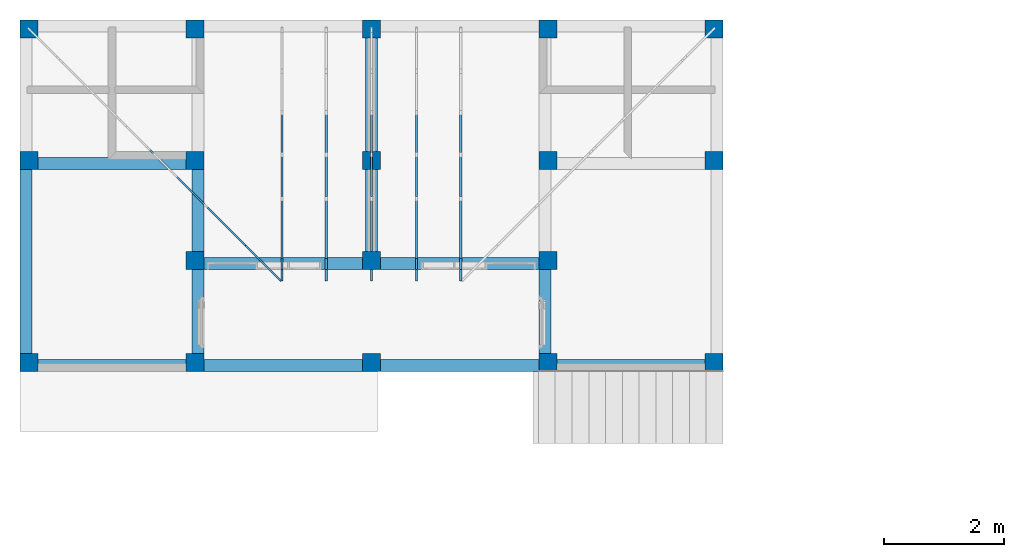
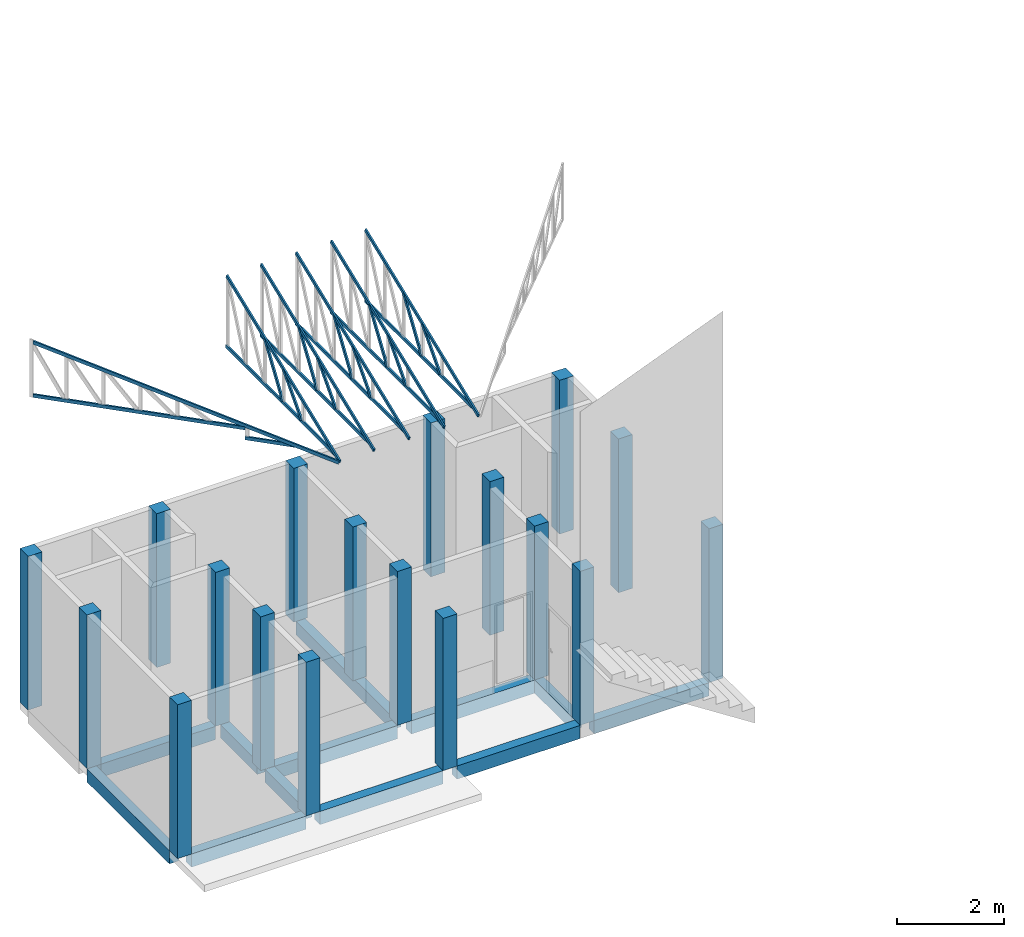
# One storey, part 1 of 10: 23 members, 18 columns, 12 beams, 6 elements without a shape of their own.
"""IFC4X3_ADD2 building model written with IfcOpenShell, lengths in millimetres."""

from ifc_helpers import new_model, entity, si_unit, converted_unit, frame, origin_with_axes, origin_2d_with_axis, place, context, subcontext, project, spatial, rectangle, extrude, clip, halfspace, material, material_profile, profile_set, profile_usage, type_object, element, aggregate, save


model = new_model("IFC4X3_ADD2")

# Units and contexts
model_context = context("Model", 3, precision=1e-05, world=origin_with_axes())
plan_context = context("Plan", 2, precision=1e-05, world=origin_2d_with_axis())
body_context = subcontext(model_context, "Body", "Model", "MODEL_VIEW")
ifc_project = project(units=[si_unit("VOLUMEUNIT", "CUBIC_METRE"), si_unit("LENGTHUNIT", "METRE", prefix="MILLI"), converted_unit("PLANEANGLEUNIT", "degree", entity("IfcReal", 0.0174532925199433), si_unit("PLANEANGLEUNIT", "RADIAN"), dimensions=[0, 0, 0, 0, 0, 0, 0]), si_unit("AREAUNIT", "SQUARE_METRE")], contexts=[model_context, plan_context])

# Site, building, storey
site_placement = place(None, origin_with_axes())
site = spatial("IfcSite", under=ifc_project, at=site_placement, Name="My Site")
building_placement = place(site_placement, origin_with_axes())
building = spatial("IfcBuilding", under=site, at=building_placement, Name="My Building")
storey_placement = place(building_placement, origin_with_axes())
storey = spatial("IfcBuildingStorey", under=building, at=storey_placement, Name="Lantai 1")

# Columns
ifc_material_1 = material(Name="plester")
ifc_material_profile_1 = material_profile(ifc_material_1, rectangle(XDim=300.0, YDim=300.0))
ifc_profile_set_1 = profile_set([ifc_material_profile_1])
ifc_profile_usage_1 = profile_usage(ifc_profile_set_1, cardinal=5)
column_type = type_object("IfcColumnType", Name="K1", PredefinedType="COLUMN", material=ifc_profile_set_1)
column_1_placement = place(storey_placement, origin_with_axes())
element("IfcColumn", 1, at=column_1_placement, inside=storey, type_object=column_type, material=ifc_profile_usage_1, Name="Column", context=body_context, shape_type="SweptSolid", body=[
    extrude(rectangle(XDim=300.0, YDim=300.0), origin_with_axes(), (0.0, 0.0, 1.0), 3500.00027247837),
])
ifc_profile_usage_2 = profile_usage(ifc_profile_set_1, cardinal=5)
column_2_placement = place(storey_placement, frame((0.0, 3369.99988555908, 0.0), z_axis=(0.0, 0.0, 1.0), x_axis=(1.0, 0.0, 0.0)))
element("IfcColumn", 2, at=column_2_placement, inside=storey, type_object=column_type, material=ifc_profile_usage_2, Name="Column", context=body_context, shape_type="SweptSolid", body=[
    extrude(rectangle(XDim=300.0, YDim=300.0), origin_with_axes(), (0.0, 0.0, 1.0), 3500.00027247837),
])
ifc_profile_usage_3 = profile_usage(ifc_profile_set_1, cardinal=5)
column_3_placement = place(storey_placement, frame((0.0, 5569.99969482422, 0.0), z_axis=(0.0, 0.0, 1.0), x_axis=(1.0, 0.0, 0.0)))
element("IfcColumn", 3, at=column_3_placement, inside=storey, type_object=column_type, material=ifc_profile_usage_3, Name="Column", context=body_context, shape_type="SweptSolid", body=[
    extrude(rectangle(XDim=300.0, YDim=300.0), origin_with_axes(), (0.0, 0.0, 1.0), 3500.00027247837),
])
ifc_profile_usage_4 = profile_usage(ifc_profile_set_1, cardinal=5)
column_4_placement = place(storey_placement, frame((2769.99998092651, 5569.99969482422, 0.0), z_axis=(0.0, 0.0, 1.0), x_axis=(1.0, 0.0, 0.0)))
element("IfcColumn", 4, at=column_4_placement, inside=storey, type_object=column_type, material=ifc_profile_usage_4, Name="Column", context=body_context, shape_type="SweptSolid", body=[
    extrude(rectangle(XDim=300.0, YDim=300.0), origin_with_axes(), (0.0, 0.0, 1.0), 3500.00027247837),
])
ifc_profile_usage_5 = profile_usage(ifc_profile_set_1, cardinal=5)
column_5_placement = place(storey_placement, frame((2769.99998092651, 1699.99980926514, 0.0), z_axis=(0.0, 0.0, 1.0), x_axis=(1.0, 0.0, 0.0)))
element("IfcColumn", 5, at=column_5_placement, inside=storey, type_object=column_type, material=ifc_profile_usage_5, Name="Column", context=body_context, shape_type="SweptSolid", body=[
    extrude(rectangle(XDim=300.0, YDim=300.0), origin_with_axes(), (0.0, 0.0, 1.0), 3500.00027247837),
])
ifc_profile_usage_6 = profile_usage(ifc_profile_set_1, cardinal=5)
column_6_placement = place(storey_placement, frame((2769.99998092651, 0.0, 0.0), z_axis=(0.0, 0.0, 1.0), x_axis=(1.0, 0.0, 0.0)))
element("IfcColumn", 6, at=column_6_placement, inside=storey, type_object=column_type, material=ifc_profile_usage_6, Name="Column", context=body_context, shape_type="SweptSolid", body=[
    extrude(rectangle(XDim=300.0, YDim=300.0), origin_with_axes(), (0.0, 0.0, 1.0), 3500.00027247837),
])
ifc_profile_usage_7 = profile_usage(ifc_profile_set_1, cardinal=5)
column_7_placement = place(storey_placement, frame((2769.99998092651, 3369.99988555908, 0.0), z_axis=(0.0, 0.0, 1.0), x_axis=(1.0, 0.0, 0.0)))
element("IfcColumn", 7, at=column_7_placement, inside=storey, type_object=column_type, material=ifc_profile_usage_7, Name="Column", context=body_context, shape_type="SweptSolid", body=[
    extrude(rectangle(XDim=300.0, YDim=300.0), origin_with_axes(), (0.0, 0.0, 1.0), 3500.00027247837),
])
ifc_profile_usage_8 = profile_usage(ifc_profile_set_1, cardinal=5)
column_8_placement = place(storey_placement, frame((5720.00026702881, 5569.99969482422, 0.0), z_axis=(0.0, 0.0, 1.0), x_axis=(1.0, 0.0, 0.0)))
element("IfcColumn", 8, at=column_8_placement, inside=storey, type_object=column_type, material=ifc_profile_usage_8, Name="Column", context=body_context, shape_type="SweptSolid", body=[
    extrude(rectangle(XDim=300.0, YDim=300.0), origin_with_axes(), (0.0, 0.0, 1.0), 3500.00027247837),
])
ifc_profile_usage_9 = profile_usage(ifc_profile_set_1, cardinal=5)
column_9_placement = place(storey_placement, frame((5720.00026702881, 3369.99988555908, 0.0), z_axis=(0.0, 0.0, 1.0), x_axis=(1.0, 0.0, 0.0)))
element("IfcColumn", 9, at=column_9_placement, inside=storey, type_object=column_type, material=ifc_profile_usage_9, Name="Column", context=body_context, shape_type="SweptSolid", body=[
    extrude(rectangle(XDim=300.0, YDim=300.0), origin_with_axes(), (0.0, 0.0, 1.0), 3500.00027247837),
])
ifc_profile_usage_10 = profile_usage(ifc_profile_set_1, cardinal=5)
column_10_placement = place(storey_placement, frame((5720.00026702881, 1699.99980926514, 0.0), z_axis=(0.0, 0.0, 1.0), x_axis=(1.0, 0.0, 0.0)))
element("IfcColumn", 10, at=column_10_placement, inside=storey, type_object=column_type, material=ifc_profile_usage_10, Name="Column", context=body_context, shape_type="SweptSolid", body=[
    extrude(rectangle(XDim=300.0, YDim=300.0), origin_with_axes(), (0.0, 0.0, 1.0), 3500.00027247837),
])
ifc_profile_usage_11 = profile_usage(ifc_profile_set_1, cardinal=5)
column_11_placement = place(storey_placement, frame((5720.00026702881, 0.0, 0.0), z_axis=(0.0, 0.0, 1.0), x_axis=(1.0, 0.0, 0.0)))
element("IfcColumn", 11, at=column_11_placement, inside=storey, type_object=column_type, material=ifc_profile_usage_11, Name="Column", context=body_context, shape_type="SweptSolid", body=[
    extrude(rectangle(XDim=300.0, YDim=300.0), origin_with_axes(), (0.0, 0.0, 1.0), 3465.00008455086),
])
ifc_profile_usage_12 = profile_usage(ifc_profile_set_1, cardinal=5)
column_12_placement = place(storey_placement, frame((8670.00007629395, 0.0, 0.0), z_axis=(0.0, 0.0, 1.0), x_axis=(1.0, 0.0, 0.0)))
element("IfcColumn", 12, at=column_12_placement, inside=storey, type_object=column_type, material=ifc_profile_usage_12, Name="Column", context=body_context, shape_type="SweptSolid", body=[
    extrude(rectangle(XDim=300.0, YDim=300.0), origin_with_axes(), (0.0, 0.0, 1.0), 3500.00027247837),
])
ifc_profile_usage_13 = profile_usage(ifc_profile_set_1, cardinal=5)
column_13_placement = place(storey_placement, frame((8670.00007629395, 1699.99980926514, 0.0), z_axis=(0.0, 0.0, 1.0), x_axis=(1.0, 0.0, 0.0)))
element("IfcColumn", 13, at=column_13_placement, inside=storey, type_object=column_type, material=ifc_profile_usage_13, Name="Column", context=body_context, shape_type="SweptSolid", body=[
    extrude(rectangle(XDim=300.0, YDim=300.0), origin_with_axes(), (0.0, 0.0, 1.0), 3500.00027247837),
])
ifc_profile_usage_14 = profile_usage(ifc_profile_set_1, cardinal=5)
column_14_placement = place(storey_placement, frame((8670.00007629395, 3369.99988555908, 0.0), z_axis=(0.0, 0.0, 1.0), x_axis=(1.0, 0.0, 0.0)))
element("IfcColumn", 14, at=column_14_placement, inside=storey, type_object=column_type, material=ifc_profile_usage_14, Name="Column", context=body_context, shape_type="SweptSolid", body=[
    extrude(rectangle(XDim=300.0, YDim=300.0), origin_with_axes(), (0.0, 0.0, 1.0), 3500.00027247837),
])
ifc_profile_usage_15 = profile_usage(ifc_profile_set_1, cardinal=5)
column_15_placement = place(storey_placement, frame((8670.00007629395, 5569.99969482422, 0.0), z_axis=(0.0, 0.0, 1.0), x_axis=(1.0, 0.0, 0.0)))
element("IfcColumn", 15, at=column_15_placement, inside=storey, type_object=column_type, material=ifc_profile_usage_15, Name="Column", context=body_context, shape_type="SweptSolid", body=[
    extrude(rectangle(XDim=300.0, YDim=300.0), origin_with_axes(), (0.0, 0.0, 1.0), 3500.00027247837),
])
ifc_profile_usage_16 = profile_usage(ifc_profile_set_1, cardinal=5)
column_16_placement = place(storey_placement, frame((11440.0005340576, 5569.99969482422, 0.0), z_axis=(0.0, 0.0, 1.0), x_axis=(1.0, 0.0, 0.0)))
element("IfcColumn", 16, at=column_16_placement, inside=storey, type_object=column_type, material=ifc_profile_usage_16, Name="Column", context=body_context, shape_type="SweptSolid", body=[
    extrude(rectangle(XDim=300.0, YDim=300.0), origin_with_axes(), (0.0, 0.0, 1.0), 3500.00027247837),
])
ifc_profile_usage_17 = profile_usage(ifc_profile_set_1, cardinal=5)
column_17_placement = place(storey_placement, frame((11440.0005340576, 3369.99988555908, 0.0), z_axis=(0.0, 0.0, 1.0), x_axis=(1.0, 0.0, 0.0)))
element("IfcColumn", 17, at=column_17_placement, inside=storey, type_object=column_type, material=ifc_profile_usage_17, Name="Column", context=body_context, shape_type="SweptSolid", body=[
    extrude(rectangle(XDim=300.0, YDim=300.0), origin_with_axes(), (0.0, 0.0, 1.0), 3500.00027247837),
])
ifc_profile_usage_18 = profile_usage(ifc_profile_set_1, cardinal=5)
column_18_placement = place(storey_placement, frame((11440.0005340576, 0.0, 0.0), z_axis=(0.0, 0.0, 1.0), x_axis=(1.0, 0.0, 0.0)))
element("IfcColumn", 18, at=column_18_placement, inside=storey, type_object=column_type, material=ifc_profile_usage_18, Name="Column", context=body_context, shape_type="SweptSolid", body=[
    extrude(rectangle(XDim=300.0, YDim=300.0), origin_with_axes(), (0.0, 0.0, 1.0), 3500.00027247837),
])

# Beams
ifc_material_profile_2 = material_profile(ifc_material_1, rectangle(XDim=200.0, YDim=300.0))
ifc_profile_set_2 = profile_set([ifc_material_profile_2])
ifc_profile_usage_19 = profile_usage(ifc_profile_set_2, cardinal=9)
beam_type = type_object("IfcBeamType", Name="TB1", PredefinedType="BEAM", material=ifc_profile_set_2)
beam_1_placement = place(storey_placement, frame((-150.000005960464, 3219.99979019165, 0.0), z_axis=(0.0, -0.999999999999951, 3.13916482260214e-07), x_axis=(1.0, 0.0, 0.0)))
element("IfcBeam", 19, at=beam_1_placement, inside=storey, type_object=beam_type, material=ifc_profile_usage_19, Name="Beam", context=body_context, shape_type="SweptSolid", body=[
    extrude(rectangle(XDim=200.0, YDim=300.0), frame((100.0, -150.0, 0.0), z_axis=(0.0, 0.0, 1.0), x_axis=(1.0, 0.0, 0.0)), (0.0, 0.0, 1.0), 3069.99969830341),
])
ifc_profile_usage_20 = profile_usage(ifc_profile_set_2, cardinal=9)
beam_2_placement = place(storey_placement, frame((150.000005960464, -150.000005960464, 0.0), z_axis=(0.999999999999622, -6.71544177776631e-07, 5.52335037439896e-07), x_axis=(6.7154434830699e-07, 0.99999999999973, -2.98023191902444e-07)))
element("IfcBeam", 20, at=beam_2_placement, inside=storey, type_object=beam_type, material=ifc_profile_usage_20, Name="Beam", context=body_context, shape_type="SweptSolid", body=[
    extrude(rectangle(XDim=200.0, YDim=300.0), frame((100.0, -150.0, 0.0), z_axis=(0.0, 0.0, 1.0), x_axis=(1.0, 0.0, 0.0)), (0.0, 0.0, 1.0), 2469.99974548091),
])
ifc_profile_usage_21 = profile_usage(ifc_profile_set_2, cardinal=9)
beam_3_placement = place(storey_placement, frame((2920.00007629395, -150.000005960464, 0.0), z_axis=(0.999999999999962, -1.94707164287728e-07, 1.94707178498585e-07), x_axis=(1.94707178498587e-07, 0.999999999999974, -1.19209289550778e-07)))
element("IfcBeam", 21, at=beam_3_placement, inside=storey, type_object=beam_type, material=ifc_profile_usage_21, Name="Beam", context=body_context, shape_type="SweptSolid", body=[
    extrude(rectangle(XDim=200.0, YDim=300.0), frame((100.0, -150.0, 0.0), z_axis=(0.0, 0.0, 1.0), x_axis=(1.0, 0.0, 0.0)), (0.0, 0.0, 1.0), 2650.00009716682),
])
ifc_profile_usage_22 = profile_usage(ifc_profile_set_2, cardinal=9)
beam_4_placement = place(storey_placement, frame((5870.00036239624, -150.000005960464, 0.0), z_axis=(0.999999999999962, -1.94707164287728e-07, 1.94707178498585e-07), x_axis=(1.94707178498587e-07, 0.999999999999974, -1.19209289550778e-07)))
element("IfcBeam", 22, at=beam_4_placement, inside=storey, type_object=beam_type, material=ifc_profile_usage_22, Name="Beam", context=body_context, shape_type="SweptSolid", body=[
    extrude(rectangle(XDim=200.0, YDim=300.0), frame((100.0, -150.0, 0.0), z_axis=(0.0, 0.0, 1.0), x_axis=(1.0, 0.0, 0.0)), (0.0, 0.0, 1.0), 2650.00009716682),
])
ifc_profile_usage_23 = profile_usage(ifc_profile_set_2, cardinal=9)
beam_5_placement = place(storey_placement, frame((8819.99969482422, -150.000005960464, 0.0), z_axis=(0.999999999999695, -5.5233481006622e-07, 5.52335037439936e-07), x_axis=(5.52335037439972e-07, 0.99999999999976, -4.17232502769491e-07)))
element("IfcBeam", 23, at=beam_5_placement, inside=storey, type_object=beam_type, material=ifc_profile_usage_23, Name="Beam", context=body_context, shape_type="SweptSolid", body=[
    extrude(rectangle(XDim=200.0, YDim=300.0), frame((100.0, -150.0, 0.0), z_axis=(0.0, 0.0, 1.0), x_axis=(1.0, 0.0, 0.0)), (0.0, 0.0, 1.0), 2470.00119336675),
])
ifc_profile_usage_24 = profile_usage(ifc_profile_set_2, cardinal=9)
beam_6_placement = place(storey_placement, frame((2920.00007629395, 1549.99983310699, -3.88538837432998), z_axis=(0.999999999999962, -1.94707169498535e-07, 1.9470718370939e-07), x_axis=(1.94707183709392e-07, 0.999999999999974, -1.19209289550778e-07)))
element("IfcBeam", 24, at=beam_6_placement, inside=storey, type_object=beam_type, material=ifc_profile_usage_24, Name="Beam", context=body_context, shape_type="SweptSolid", body=[
    extrude(rectangle(XDim=200.0, YDim=300.0), frame((100.0, -150.0, 0.0), z_axis=(0.0, 0.0, 1.0), x_axis=(1.0, 0.0, 0.0)), (0.0, 0.0, 1.0), 2650.00009716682),
])
ifc_profile_usage_25 = profile_usage(ifc_profile_set_2, cardinal=9)
beam_7_placement = place(storey_placement, frame((5870.00036239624, 1549.99983310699, -3.88538837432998), z_axis=(0.999998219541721, -1.94707057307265e-07, 0.00188703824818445), x_axis=(1.94707183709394e-07, 0.999999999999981, 1.12471816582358e-10)))
element("IfcBeam", 25, at=beam_7_placement, inside=storey, type_object=beam_type, material=ifc_profile_usage_25, Name="Beam", context=body_context, shape_type="SweptSolid", body=[
    extrude(rectangle(XDim=200.0, YDim=300.0), frame((100.0, -150.0, 0.0), z_axis=(0.0, 0.0, 1.0), x_axis=(1.0, 0.0, 0.0)), (0.0, 0.0, 1.0), 2650.00481413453),
])
ifc_profile_usage_26 = profile_usage(ifc_profile_set_2, cardinal=9)
beam_8_placement = place(storey_placement, frame((2920.00007629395, 150.000005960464, -3.88538837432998), z_axis=(-8.74227765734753e-08, 0.999999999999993, 7.54979012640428e-08), x_axis=(-0.999999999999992, -8.74227765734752e-08, 8.74227836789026e-08)))
element("IfcBeam", 26, at=beam_8_placement, inside=storey, type_object=beam_type, material=ifc_profile_usage_26, Name="Beam", context=body_context, shape_type="SweptSolid", body=[
    extrude(rectangle(XDim=200.0, YDim=300.0), frame((100.0, -150.0, 0.0), z_axis=(0.0, 0.0, 1.0), x_axis=(1.0, 0.0, 0.0)), (0.0, 0.0, 1.0), 1399.99984332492),
])
ifc_profile_usage_27 = profile_usage(ifc_profile_set_2, cardinal=9)
beam_9_placement = place(storey_placement, frame((2920.00007629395, 1849.99978542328, -3.88538837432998), z_axis=(8.77412574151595e-08, 0.999993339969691, 0.00364965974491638), x_axis=(-0.999999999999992, 8.74227765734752e-08, 8.74221797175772e-08)))
element("IfcBeam", 27, at=beam_9_placement, inside=storey, type_object=beam_type, material=ifc_profile_usage_27, Name="Beam", context=body_context, shape_type="SweptSolid", body=[
    extrude(rectangle(XDim=200.0, YDim=300.0), frame((100.0, -150.0, 0.0), z_axis=(0.0, 0.0, 1.0), x_axis=(1.0, 0.0, 0.0)), (0.0, 0.0, 1.0), 1370.00910858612),
])
ifc_profile_usage_28 = profile_usage(ifc_profile_set_2, cardinal=9)
beam_10_placement = place(storey_placement, frame((150.000005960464, 3219.99979019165, 0.0), z_axis=(0.999999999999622, -6.71544177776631e-07, 5.52335037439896e-07), x_axis=(6.7154434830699e-07, 0.99999999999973, -2.98023191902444e-07)))
element("IfcBeam", 28, at=beam_10_placement, inside=storey, type_object=beam_type, material=ifc_profile_usage_28, Name="Beam", context=body_context, shape_type="SweptSolid", body=[
    extrude(rectangle(XDim=200.0, YDim=300.0), frame((100.0, -150.0, 0.0), z_axis=(0.0, 0.0, 1.0), x_axis=(1.0, 0.0, 0.0)), (0.0, 0.0, 1.0), 2469.99974548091),
])
ifc_profile_usage_29 = profile_usage(ifc_profile_set_2, cardinal=8)
beam_11_placement = place(storey_placement, frame((5720.00026702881, 5419.99959945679, 0.0), z_axis=(0.0, -0.999999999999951, 3.13916482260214e-07), x_axis=(1.0, 0.0, 0.0)))
element("IfcBeam", 29, at=beam_11_placement, inside=storey, type_object=beam_type, material=ifc_profile_usage_29, Name="Beam", context=body_context, shape_type="SweptSolid", body=[
    extrude(rectangle(XDim=200.0, YDim=300.0), frame((0.0, -150.0, 0.0), z_axis=(0.0, 0.0, 1.0), x_axis=(1.0, 0.0, 0.0)), (0.0, 0.0, 1.0), 3569.99943068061),
])
ifc_profile_usage_30 = profile_usage(ifc_profile_set_2, cardinal=9)
beam_12_placement = place(storey_placement, frame((8520.00045776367, 1549.99983310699, -0.000105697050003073), z_axis=(0.0, -0.999999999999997, 7.54979012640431e-08), x_axis=(1.0, 0.0, 0.0)))
element("IfcBeam", 30, at=beam_12_placement, inside=storey, type_object=beam_type, material=ifc_profile_usage_30, Name="Beam", context=body_context, shape_type="SweptSolid", body=[
    extrude(rectangle(XDim=200.0, YDim=300.0), frame((100.0, -150.0, 0.0), z_axis=(0.0, 0.0, 1.0), x_axis=(1.0, 0.0, 0.0)), (0.0, 0.0, 1.0), 1399.99984332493),
])

# Assembly, members
assembly_1_placement = place(storey_placement, frame((-23.0636596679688, 5586.93552017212, 3885.87069511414), z_axis=(0.0, 0.0, 1.0), x_axis=(0.707106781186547, 0.707106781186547, 0.0)))
assembly_1 = element("IfcElementAssembly", 31, at=assembly_1_placement, inside=storey, Name="KK2_0")
ifc_material_2 = material(Name="Galvanis")
ifc_material_profile_3 = material_profile(ifc_material_2, rectangle(XDim=35.0, YDim=75.0))
ifc_profile_set_3 = profile_set([ifc_material_profile_3])
ifc_profile_usage_31 = profile_usage(ifc_profile_set_3, cardinal=2)
member_type = type_object("IfcMemberType", Name="C75", PredefinedType="MEMBER", material=ifc_profile_set_3)
member_1_placement = place(assembly_1_placement, frame((4.33320178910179, -5217.57770936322, 2885.51592826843), z_axis=(2.52881095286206e-07, 0.999999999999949, 1.94707187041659e-07), x_axis=(-0.999999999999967, 2.52881095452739e-07, 5.23002627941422e-08)))
member_1 = element("IfcMember", 32, at=member_1_placement, type_object=member_type, material=ifc_profile_usage_31, Name="Member", context=body_context, shape_type="Clipping", body=[
    clip(extrude(rectangle(XDim=35.0, YDim=75.0), frame((0.0, 37.5, 0.0), z_axis=(0.0, 0.0, 1.0), x_axis=(1.0, 0.0, 0.0)), (0.0, 0.0, 1.0), 1051.32129504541), halfspace(frame((-0.000254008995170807, -231.505751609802, -744.089484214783), z_axis=(-5.3979487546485e-08, 0.962301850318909, -0.271984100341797), x_axis=(0.999999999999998, 5.60941325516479e-08, 0.0)), False)),
])
ifc_profile_usage_32 = profile_usage(ifc_profile_set_3, cardinal=2)
member_2_placement = place(assembly_1_placement, frame((4.33337037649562, -4166.25711062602, 3108.05296897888), z_axis=(0.0, 0.999999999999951, 3.13916478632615e-07), x_axis=(-1.0, 0.0, 2.00424320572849e-08)))
member_2 = element("IfcMember", 33, at=member_2_placement, type_object=member_type, material=ifc_profile_usage_32, Name="Member", context=body_context, shape_type="SweptSolid", body=[
    extrude(rectangle(XDim=35.0, YDim=75.0), frame((0.0, 37.5, 0.0), z_axis=(0.0, 0.0, 1.0), x_axis=(1.0, 0.0, 0.0)), (0.0, 0.0, 1.0), 4091.25681661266),
])
ifc_profile_usage_33 = profile_usage(ifc_profile_set_3, cardinal=8)
member_3_placement = place(assembly_1_placement, frame((4.33345467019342, -5982.06666615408, 2726.18174552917), z_axis=(4.21468496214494e-08, 0.962301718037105, 0.27198419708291), x_axis=(-0.999999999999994, 0.0, 1.04377663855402e-07)))
member_3 = element("IfcMember", 34, at=member_3_placement, type_object=member_type, material=ifc_profile_usage_33, Name="Member", context=body_context, shape_type="Clipping", body=[
    clip(extrude(rectangle(XDim=35.0, YDim=75.0), frame((0.0, -37.5, 0.0), z_axis=(0.0, 0.0, 1.0), x_axis=(1.0, 0.0, 0.0)), (0.0, 0.0, 1.0), 6213.47752101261), halfspace(frame((0.000474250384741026, -1239.1529083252, 5788.24424743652), z_axis=(1.78813934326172e-07, -0.271984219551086, 0.962301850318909), x_axis=(-0.999999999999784, -6.57442312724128e-07, 0.0)), False)),
])
aggregate(assembly_1, [member_1, member_2, member_3])

assembly_2_placement = place(storey_placement, frame((4964.99967575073, 5604.99954223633, 6607.21015930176), z_axis=(0.0, 0.0, 1.0), x_axis=(1.0, 0.0, 0.0)))
assembly_2 = element("IfcElementAssembly", 35, at=assembly_2_placement, inside=storey, Name="KK1_1")
ifc_profile_usage_34 = profile_usage(ifc_profile_set_3, cardinal=2)
member_4_placement = place(assembly_2_placement, frame((2.66453525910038e-12, -2777.65727043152, 24.7716903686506), z_axis=(-5.76451745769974e-08, 0.669715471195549, 0.742617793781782), x_axis=(-0.999999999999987, -1.50995802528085e-07, 5.85483519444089e-08)))
member_4 = element("IfcMember", 36, at=member_4_placement, type_object=member_type, material=ifc_profile_usage_34, Name="Member.062", context=body_context, shape_type="SweptSolid", body=[
    extrude(rectangle(XDim=35.0, YDim=75.0), frame((0.0, 37.5, 0.0), z_axis=(0.0, 0.0, 1.0), x_axis=(1.0, 0.0, 0.0)), (0.0, 0.0, 1.0), 1002.38325319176),
])
ifc_profile_usage_35 = profile_usage(ifc_profile_set_3, cardinal=2)
member_5_placement = place(assembly_2_placement, frame((2.66453525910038e-12, -2077.74877548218, 33.5464477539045), z_axis=(-4.31898773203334e-08, 0.552720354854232, 0.83336679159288), x_axis=(-0.999999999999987, -1.50995802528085e-07, 4.83203450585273e-08)))
member_5 = element("IfcMember", 37, at=member_5_placement, type_object=member_type, material=ifc_profile_usage_35, Name="Member.066", context=body_context, shape_type="SweptSolid", body=[
    extrude(rectangle(XDim=35.0, YDim=75.0), frame((0.0, 37.5, 0.0), z_axis=(0.0, 0.0, 1.0), x_axis=(1.0, 0.0, 0.0)), (0.0, 0.0, 1.0), 1218.86084125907),
])
ifc_profile_usage_36 = profile_usage(ifc_profile_set_3, cardinal=2)
member_6_placement = place(assembly_2_placement, frame((0.0, 0.0, 0.0), z_axis=(0.0, -0.999999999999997, 7.54979012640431e-08), x_axis=(1.0, 0.0, 0.0)))
member_6 = element("IfcMember", 38, at=member_6_placement, type_object=member_type, material=ifc_profile_usage_36, Name="Member.070", context=body_context, shape_type="Clipping", body=[
    clip(extrude(rectangle(XDim=35.0, YDim=75.0), frame((0.0, 37.5, 0.0), z_axis=(0.0, 0.0, 1.0), x_axis=(1.0, 0.0, 0.0)), (0.0, 0.0, 1.0), 4129.50420109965), halfspace(frame((0.0, 1609.33971405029, 0.117922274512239), z_axis=(0.0, 0.929454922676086, 0.368935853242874), x_axis=(1.0, 0.0, 0.0)), False)),
])
ifc_profile_usage_37 = profile_usage(ifc_profile_set_3, cardinal=8)
member_7_placement = place(assembly_2_placement, frame((0.0, -27.7881622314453, 1679.04853820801), z_axis=(0.0, -0.92945487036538, -0.368935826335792), x_axis=(1.0, 0.0, 0.0)))
member_7 = element("IfcMember", 39, at=member_7_placement, type_object=member_type, material=ifc_profile_usage_37, Name="Member.144", context=body_context, shape_type="SweptSolid", body=[
    extrude(rectangle(XDim=35.0, YDim=75.0), frame((0.0, -37.5, 0.0), z_axis=(0.0, 0.0, 1.0), x_axis=(1.0, 0.0, 0.0)), (0.0, 0.0, 1.0), 4537.30873986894),
])
aggregate(assembly_2, [member_4, member_5, member_6, member_7])

assembly_3_placement = place(storey_placement, frame((7212.50009536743, 5604.99954223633, 6607.21015930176), z_axis=(0.0, 0.0, 1.0), x_axis=(1.0, 0.0, 0.0)))
assembly_3 = element("IfcElementAssembly", 40, at=assembly_3_placement, inside=storey, Name="KK1_4")
ifc_profile_usage_38 = profile_usage(ifc_profile_set_3, cardinal=2)
member_8_placement = place(assembly_3_placement, frame((0.0, 0.0, 0.0), z_axis=(0.0, -0.999999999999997, 7.54979012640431e-08), x_axis=(1.0, 0.0, 0.0)))
member_8 = element("IfcMember", 41, at=member_8_placement, type_object=member_type, material=ifc_profile_usage_38, Name="Member.078", context=body_context, shape_type="Clipping", body=[
    clip(extrude(rectangle(XDim=35.0, YDim=75.0), frame((0.0, 37.5, 0.0), z_axis=(0.0, 0.0, 1.0), x_axis=(1.0, 0.0, 0.0)), (0.0, 0.0, 1.0), 4129.50420109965), halfspace(frame((0.0, 1609.33971405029, 0.117922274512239), z_axis=(0.0, 0.929454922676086, 0.368935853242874), x_axis=(1.0, 0.0, 0.0)), False)),
])
ifc_profile_usage_39 = profile_usage(ifc_profile_set_3, cardinal=8)
member_9_placement = place(assembly_3_placement, frame((0.0, -27.7881622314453, 1679.04853820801), z_axis=(0.0, -0.92945487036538, -0.368935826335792), x_axis=(1.0, 0.0, 0.0)))
member_9 = element("IfcMember", 42, at=member_9_placement, type_object=member_type, material=ifc_profile_usage_39, Name="Member.146", context=body_context, shape_type="SweptSolid", body=[
    extrude(rectangle(XDim=35.0, YDim=75.0), frame((0.0, -37.5, 0.0), z_axis=(0.0, 0.0, 1.0), x_axis=(1.0, 0.0, 0.0)), (0.0, 0.0, 1.0), 4537.30873986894),
])
ifc_profile_usage_40 = profile_usage(ifc_profile_set_3, cardinal=2)
member_10_placement = place(assembly_3_placement, frame((0.0, -2777.65727043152, 24.7716903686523), z_axis=(-5.76451745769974e-08, 0.669715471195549, 0.742617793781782), x_axis=(-0.999999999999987, -1.50995802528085e-07, 5.85483483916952e-08)))
member_10 = element("IfcMember", 43, at=member_10_placement, type_object=member_type, material=ifc_profile_usage_40, Name="Member.082", context=body_context, shape_type="SweptSolid", body=[
    extrude(rectangle(XDim=35.0, YDim=75.0), frame((0.0, 37.5, 0.0), z_axis=(0.0, 0.0, 1.0), x_axis=(1.0, 0.0, 0.0)), (0.0, 0.0, 1.0), 1002.38325319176),
])
ifc_profile_usage_41 = profile_usage(ifc_profile_set_3, cardinal=2)
member_11_placement = place(assembly_3_placement, frame((0.0, -2077.74877548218, 33.5464477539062), z_axis=(-4.31898773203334e-08, 0.552720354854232, 0.83336679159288), x_axis=(-0.999999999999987, -1.50995802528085e-07, 4.83203450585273e-08)))
member_11 = element("IfcMember", 44, at=member_11_placement, type_object=member_type, material=ifc_profile_usage_41, Name="Member.088", context=body_context, shape_type="SweptSolid", body=[
    extrude(rectangle(XDim=35.0, YDim=75.0), frame((0.0, 37.5, 0.0), z_axis=(0.0, 0.0, 1.0), x_axis=(1.0, 0.0, 0.0)), (0.0, 0.0, 1.0), 1218.86084125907),
])
aggregate(assembly_3, [member_8, member_9, member_10, member_11])

assembly_4_placement = place(storey_placement, frame((6474.99990463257, 5604.99954223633, 6607.21063613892), z_axis=(0.0, 0.0, 1.0), x_axis=(1.0, 0.0, 0.0)))
assembly_4 = element("IfcElementAssembly", 45, at=assembly_4_placement, inside=storey, Name="KK1_3")
ifc_profile_usage_42 = profile_usage(ifc_profile_set_3, cardinal=2)
member_12_placement = place(assembly_4_placement, frame((0.0, 0.0, 0.0), z_axis=(0.0, -0.999999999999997, 7.54979012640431e-08), x_axis=(1.0, 0.0, 0.0)))
member_12 = element("IfcMember", 46, at=member_12_placement, type_object=member_type, material=ifc_profile_usage_42, Name="Member.097", context=body_context, shape_type="Clipping", body=[
    clip(extrude(rectangle(XDim=35.0, YDim=75.0), frame((0.0, 37.5, 0.0), z_axis=(0.0, 0.0, 1.0), x_axis=(1.0, 0.0, 0.0)), (0.0, 0.0, 1.0), 4129.50420109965), halfspace(frame((0.0, 1609.33971405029, 0.117922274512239), z_axis=(0.0, 0.929454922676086, 0.368935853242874), x_axis=(1.0, 0.0, 0.0)), False)),
])
ifc_profile_usage_43 = profile_usage(ifc_profile_set_3, cardinal=8)
member_13_placement = place(assembly_4_placement, frame((0.0, -27.7881622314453, 1679.04806137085), z_axis=(0.0, -0.92945487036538, -0.368935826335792), x_axis=(1.0, 0.0, 0.0)))
member_13 = element("IfcMember", 47, at=member_13_placement, type_object=member_type, material=ifc_profile_usage_43, Name="Member.150", context=body_context, shape_type="SweptSolid", body=[
    extrude(rectangle(XDim=35.0, YDim=75.0), frame((0.0, -37.5, 0.0), z_axis=(0.0, 0.0, 1.0), x_axis=(1.0, 0.0, 0.0)), (0.0, 0.0, 1.0), 4537.30873986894),
])
ifc_profile_usage_44 = profile_usage(ifc_profile_set_3, cardinal=2)
member_14_placement = place(assembly_4_placement, frame((0.0, -2777.65727043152, 24.7716903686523), z_axis=(-5.76451745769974e-08, 0.669715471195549, 0.742617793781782), x_axis=(-0.999999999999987, -1.50995802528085e-07, 5.85483483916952e-08)))
member_14 = element("IfcMember", 48, at=member_14_placement, type_object=member_type, material=ifc_profile_usage_44, Name="Member.101", context=body_context, shape_type="SweptSolid", body=[
    extrude(rectangle(XDim=35.0, YDim=75.0), frame((0.0, 37.5, 0.0), z_axis=(0.0, 0.0, 1.0), x_axis=(1.0, 0.0, 0.0)), (0.0, 0.0, 1.0), 1002.38325319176),
])
ifc_profile_usage_45 = profile_usage(ifc_profile_set_3, cardinal=2)
member_15_placement = place(assembly_4_placement, frame((0.0, -2077.74877548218, 33.5464477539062), z_axis=(-4.31898773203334e-08, 0.552720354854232, 0.83336679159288), x_axis=(-0.999999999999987, -1.50995802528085e-07, 4.83203450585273e-08)))
member_15 = element("IfcMember", 49, at=member_15_placement, type_object=member_type, material=ifc_profile_usage_45, Name="Member.104", context=body_context, shape_type="SweptSolid", body=[
    extrude(rectangle(XDim=35.0, YDim=75.0), frame((0.0, 37.5, 0.0), z_axis=(0.0, 0.0, 1.0), x_axis=(1.0, 0.0, 0.0)), (0.0, 0.0, 1.0), 1218.86084125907),
])
aggregate(assembly_4, [member_12, member_13, member_14, member_15])

assembly_5_placement = place(storey_placement, frame((4227.49996185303, 5604.99954223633, 6607.21015930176), z_axis=(0.0, 0.0, 1.0), x_axis=(1.0, 0.0, 0.0)))
assembly_5 = element("IfcElementAssembly", 50, at=assembly_5_placement, inside=storey, Name="KK1_2")
ifc_profile_usage_46 = profile_usage(ifc_profile_set_3, cardinal=2)
member_16_placement = place(assembly_5_placement, frame((0.0, 0.0, 0.0), z_axis=(0.0, -0.999999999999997, 7.54979012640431e-08), x_axis=(1.0, 0.0, 0.0)))
member_16 = element("IfcMember", 51, at=member_16_placement, type_object=member_type, material=ifc_profile_usage_46, Name="Member.058", context=body_context, shape_type="Clipping", body=[
    clip(extrude(rectangle(XDim=35.0, YDim=75.0), frame((0.0, 37.5, 0.0), z_axis=(0.0, 0.0, 1.0), x_axis=(1.0, 0.0, 0.0)), (0.0, 0.0, 1.0), 4129.50420109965), halfspace(frame((0.0, 1609.33971405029, 0.117922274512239), z_axis=(0.0, 0.929454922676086, 0.368935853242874), x_axis=(1.0, 0.0, 0.0)), False)),
])
ifc_profile_usage_47 = profile_usage(ifc_profile_set_3, cardinal=8)
member_17_placement = place(assembly_5_placement, frame((0.0, -27.7881622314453, 1679.04853820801), z_axis=(0.0, -0.92945487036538, -0.368935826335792), x_axis=(1.0, 0.0, 0.0)))
member_17 = element("IfcMember", 52, at=member_17_placement, type_object=member_type, material=ifc_profile_usage_47, Name="Member.145", context=body_context, shape_type="SweptSolid", body=[
    extrude(rectangle(XDim=35.0, YDim=75.0), frame((0.0, -37.5, 0.0), z_axis=(0.0, 0.0, 1.0), x_axis=(1.0, 0.0, 0.0)), (0.0, 0.0, 1.0), 4537.30873986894),
])
ifc_profile_usage_48 = profile_usage(ifc_profile_set_3, cardinal=2)
member_18_placement = place(assembly_5_placement, frame((0.0, -2777.65727043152, 24.7716903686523), z_axis=(-5.76451745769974e-08, 0.669715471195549, 0.742617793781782), x_axis=(-0.999999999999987, -1.50995802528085e-07, 5.85483483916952e-08)))
member_18 = element("IfcMember", 53, at=member_18_placement, type_object=member_type, material=ifc_profile_usage_48, Name="Member.063", context=body_context, shape_type="SweptSolid", body=[
    extrude(rectangle(XDim=35.0, YDim=75.0), frame((0.0, 37.5, 0.0), z_axis=(0.0, 0.0, 1.0), x_axis=(1.0, 0.0, 0.0)), (0.0, 0.0, 1.0), 1002.38325319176),
])
ifc_profile_usage_49 = profile_usage(ifc_profile_set_3, cardinal=2)
member_19_placement = place(assembly_5_placement, frame((0.0, -2077.74877548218, 33.5464477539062), z_axis=(-4.31898773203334e-08, 0.552720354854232, 0.83336679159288), x_axis=(-0.999999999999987, -1.50995802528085e-07, 4.83203450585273e-08)))
member_19 = element("IfcMember", 54, at=member_19_placement, type_object=member_type, material=ifc_profile_usage_49, Name="Member.065", context=body_context, shape_type="SweptSolid", body=[
    extrude(rectangle(XDim=35.0, YDim=75.0), frame((0.0, 37.5, 0.0), z_axis=(0.0, 0.0, 1.0), x_axis=(1.0, 0.0, 0.0)), (0.0, 0.0, 1.0), 1218.86084125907),
])
aggregate(assembly_5, [member_16, member_17, member_18, member_19])

assembly_6_placement = place(storey_placement, frame((5720.00169754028, 5604.99954223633, 6607.21015930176), z_axis=(0.0, 0.0, 1.0), x_axis=(1.0, 0.0, 0.0)))
assembly_6 = element("IfcElementAssembly", 55, at=assembly_6_placement, inside=storey, Name="KK1_0")
ifc_profile_usage_50 = profile_usage(ifc_profile_set_3, cardinal=2)
member_20_placement = place(assembly_6_placement, frame((0.0, 0.0, 0.0), z_axis=(0.0, -0.999999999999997, 7.54979012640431e-08), x_axis=(1.0, 0.0, 0.0)))
member_20 = element("IfcMember", 56, at=member_20_placement, type_object=member_type, material=ifc_profile_usage_50, Name="Member.013", context=body_context, shape_type="Clipping", body=[
    clip(extrude(rectangle(XDim=35.0, YDim=75.0), frame((0.0, 37.5, 0.0), z_axis=(0.0, 0.0, 1.0), x_axis=(1.0, 0.0, 0.0)), (0.0, 0.0, 1.0), 4129.50420109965), halfspace(frame((0.0, 1609.33971405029, 0.117922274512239), z_axis=(0.0, 0.929454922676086, 0.368935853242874), x_axis=(1.0, 0.0, 0.0)), False)),
])
ifc_profile_usage_51 = profile_usage(ifc_profile_set_3, cardinal=8)
member_21_placement = place(assembly_6_placement, frame((0.0, -27.7881622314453, 1679.04853820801), z_axis=(0.0, -0.92945487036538, -0.368935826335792), x_axis=(1.0, 0.0, 0.0)))
member_21 = element("IfcMember", 57, at=member_21_placement, type_object=member_type, material=ifc_profile_usage_51, Name="Member.132", context=body_context, shape_type="SweptSolid", body=[
    extrude(rectangle(XDim=35.0, YDim=75.0), frame((0.0, -37.5, 0.0), z_axis=(0.0, 0.0, 1.0), x_axis=(1.0, 0.0, 0.0)), (0.0, 0.0, 1.0), 4537.30873986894),
])
ifc_profile_usage_52 = profile_usage(ifc_profile_set_3, cardinal=2)
member_22_placement = place(assembly_6_placement, frame((0.0, -2777.65727043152, 24.7716903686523), z_axis=(-5.76451745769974e-08, 0.669715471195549, 0.742617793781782), x_axis=(-0.999999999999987, -1.50995802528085e-07, 5.85483483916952e-08)))
member_22 = element("IfcMember", 58, at=member_22_placement, type_object=member_type, material=ifc_profile_usage_52, Name="Member.026", context=body_context, shape_type="SweptSolid", body=[
    extrude(rectangle(XDim=35.0, YDim=75.0), frame((0.0, 37.5, 0.0), z_axis=(0.0, 0.0, 1.0), x_axis=(1.0, 0.0, 0.0)), (0.0, 0.0, 1.0), 1002.38325319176),
])
ifc_profile_usage_53 = profile_usage(ifc_profile_set_3, cardinal=2)
member_23_placement = place(assembly_6_placement, frame((0.0, -2077.74877548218, 33.5464477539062), z_axis=(-4.31898773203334e-08, 0.552720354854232, 0.83336679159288), x_axis=(-0.999999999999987, -1.50995802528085e-07, 4.83203450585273e-08)))
member_23 = element("IfcMember", 59, at=member_23_placement, type_object=member_type, material=ifc_profile_usage_53, Name="Member.044", context=body_context, shape_type="SweptSolid", body=[
    extrude(rectangle(XDim=35.0, YDim=75.0), frame((0.0, 37.5, 0.0), z_axis=(0.0, 0.0, 1.0), x_axis=(1.0, 0.0, 0.0)), (0.0, 0.0, 1.0), 1218.86084125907),
])
aggregate(assembly_6, [member_20, member_21, member_22, member_23])

save(model, "model.ifc")
